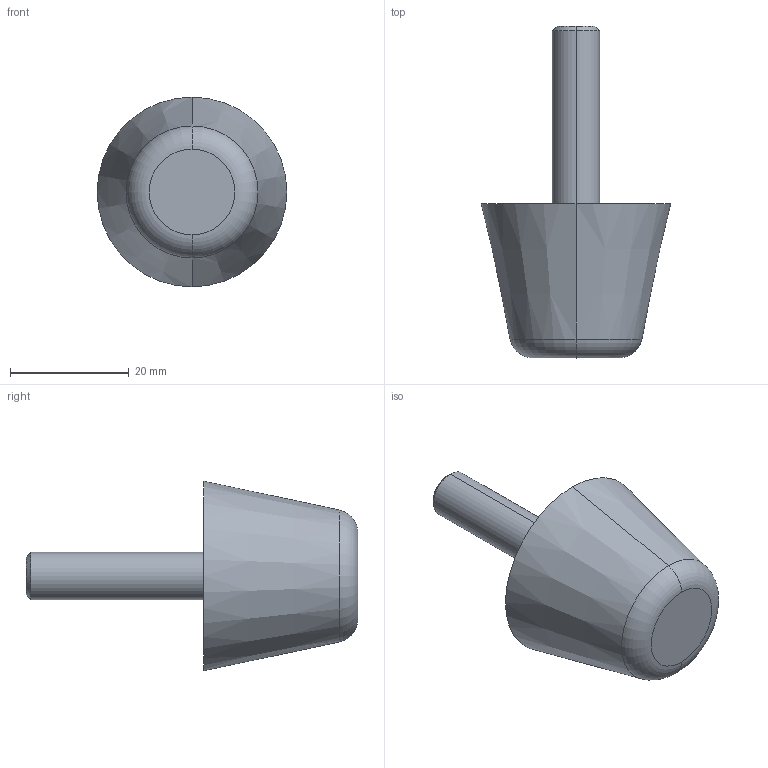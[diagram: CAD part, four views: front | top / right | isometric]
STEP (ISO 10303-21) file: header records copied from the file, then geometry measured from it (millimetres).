
FILE_DESCRIPTION (( 'STEP AP214' ), '1' );
FILE_NAME ('253-32-M8-30-55.step', '2023-03-24T07:37:53', ( '' ), ( '' ), 'SwSTEP 2.0', 'SolidWorks 2022', '' );
FILE_SCHEMA (( 'AUTOMOTIVE_DESIGN' ));
Length unit declared in the file: millimetre
Products named in the file (1): 253-32-M8-30-55
Bounding box: 32 x 55.99 x 32 mm (x, y, z)
Volume: 15862.6 mm3; surface area: 4025.8 mm2
Topology: 1 solids, 1 shells, 14 faces, 26 edges, 16 vertices
Faces by surface type: cone 6, plane 4, cylinder 2, torus 2
Entity records: 500 total; most frequent: DIRECTION 74, CARTESIAN_POINT 57, ORIENTED_EDGE 52, AXIS2_PLACEMENT_3D 33, EDGE_CURVE 26, CIRCLE 18, VERTEX_POINT 16, EDGE_LOOP 16
